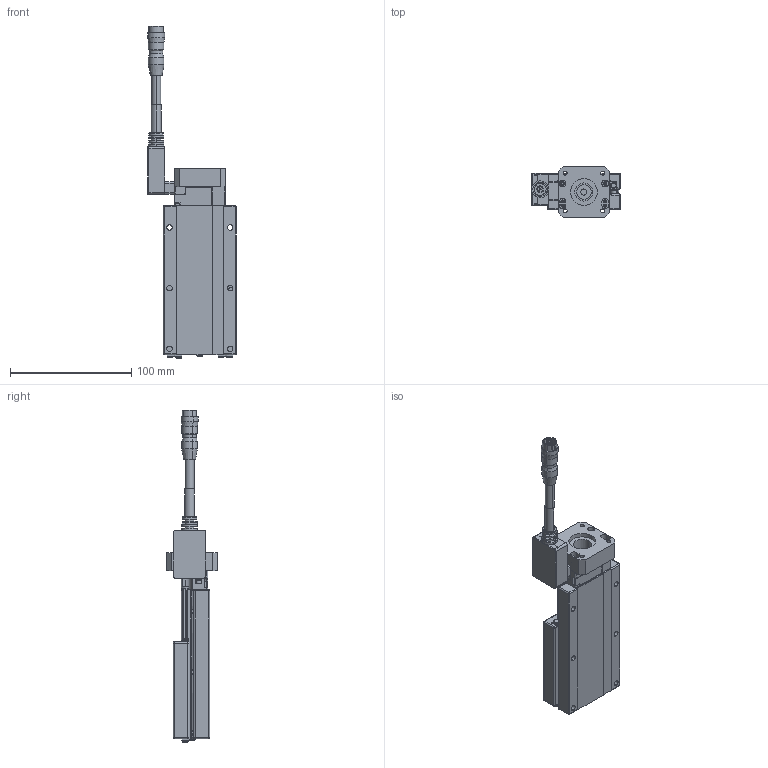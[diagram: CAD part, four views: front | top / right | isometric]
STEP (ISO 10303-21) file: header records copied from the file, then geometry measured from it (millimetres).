
FILE_DESCRIPTION (( 'STEP AP203' ), '1' );
FILE_NAME ('CXS6050(42框無馬達).STEP', '2023-12-25T08:26:21', ( '' ), ( '' ), 'SwSTEP 2.0', 'SolidWorks 2019', '' );
FILE_SCHEMA (( 'CONFIG_CONTROL_DESIGN' ));
Length unit declared in the file: millimetre
Products named in the file (5): Group2^CXS6050(42框無馬達)_defeature_GMT; CXS6050(42框無馬達); Group1^CXS6050(42框無馬達)_defeature_GMT; CXS50-G42_GMT; HR10A-10J-12P
Assembly tree (4 placements, depth 2):
  CXS6050(42框無馬達)
    Group1^CXS6050(42框無馬達)_defeature_GMT
    Group2^CXS6050(42框無馬達)_defeature_GMT
    CXS50-G42_GMT
    HR10A-10J-12P
Bounding box: 73 x 42 x 273.42 mm (x, y, z)
Volume: 65060.5 mm3; surface area: 78714.4 mm2
Topology: 6 solids, 12 shells, 1788 faces, 4605 edges, 2909 vertices
Faces by surface type: plane 994, cylinder 505, cone 112, torus 74, sphere 68, bspline 35
Entity records: 56548 total; most frequent: CARTESIAN_POINT 11839, DIRECTION 9381, ORIENTED_EDGE 9118, EDGE_CURVE 4559, AXIS2_PLACEMENT_3D 3258, VERTEX_POINT 2909, LINE 2865, VECTOR 2865
